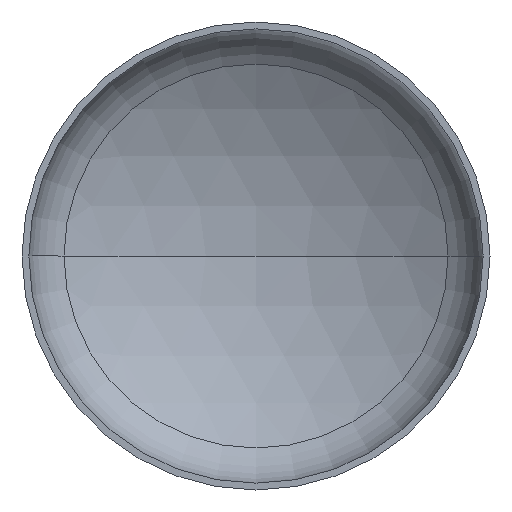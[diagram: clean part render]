
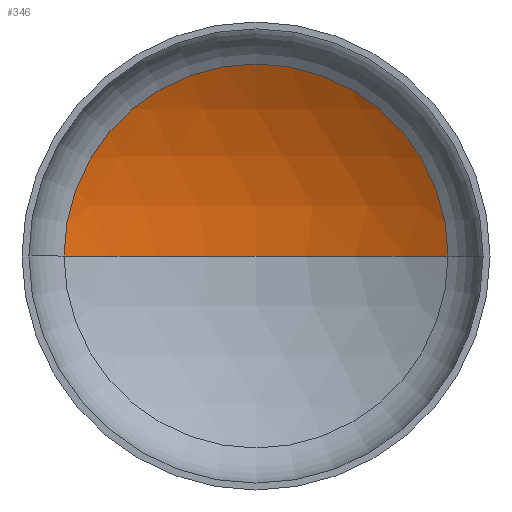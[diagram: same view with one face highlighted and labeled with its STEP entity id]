
A CAD part, front view. The second image highlights one B-rep face of the part: STEP entity #346.
In plain terms, the highlighted spherical face has radius 4800 mm.
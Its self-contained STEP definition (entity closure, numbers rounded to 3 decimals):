
#8 = VERTEX_POINT ( 'NONE', #30 ) ;
#15 = ORIENTED_EDGE ( 'NONE', *, *, #408, .T. ) ;
#29 = ORIENTED_EDGE ( 'NONE', *, *, #395, .T. ) ;
#30 = CARTESIAN_POINT ( 'NONE',  ( -2461.316, 894.134, 0. ) ) ;
#31 = VERTEX_POINT ( 'NONE', #263 ) ;
#41 = DIRECTION ( 'NONE',  ( 0., 0., -1. ) ) ;
#57 = AXIS2_PLACEMENT_3D ( 'NONE', #131, #104, #106 ) ;
#60 = DIRECTION ( 'NONE',  ( -1., 0., 0. ) ) ;
#63 = ORIENTED_EDGE ( 'NONE', *, *, #379, .F. ) ;
#100 = EDGE_LOOP ( 'NONE', ( #63, #29, #15 ) ) ;
#104 = DIRECTION ( 'NONE',  ( 0., -1., 0. ) ) ;
#106 = DIRECTION ( 'NONE',  ( 1., 0., 0. ) ) ;
#112 = VERTEX_POINT ( 'NONE', #311 ) ;
#122 = DIRECTION ( 'NONE',  ( 0., 0., -1. ) ) ;
#131 = CARTESIAN_POINT ( 'NONE',  ( 0., 894.134, 0. ) ) ;
#132 = CARTESIAN_POINT ( 'NONE',  ( 0., -3226.779, 0. ) ) ;
#191 = CARTESIAN_POINT ( 'NONE',  ( 0., -3226.779, 0. ) ) ;
#192 = DIRECTION ( 'NONE',  ( 0., 0., 1. ) ) ;
#195 = CIRCLE ( 'NONE', #57, 2461.316 ) ;
#203 = CIRCLE ( 'NONE', #384, 4800. ) ;
#263 = CARTESIAN_POINT ( 'NONE',  ( 2461.316, 894.134, 0. ) ) ;
#288 = SPHERICAL_SURFACE ( 'NONE', #334, 4800. ) ;
#305 = FACE_OUTER_BOUND ( 'NONE', #100, .T. ) ;
#311 = CARTESIAN_POINT ( 'NONE',  ( 0., 1573.221, 0. ) ) ;
#330 = DIRECTION ( 'NONE',  ( -1., 0., 0. ) ) ;
#334 = AXIS2_PLACEMENT_3D ( 'NONE', #387, #122, #60 ) ;
#346 = ADVANCED_FACE ( 'NONE', ( #305 ), #288, .F. ) ;
#374 = DIRECTION ( 'NONE',  ( 1., 0., 0. ) ) ;
#379 = EDGE_CURVE ( 'NONE', #112, #8, #203, .T. ) ;
#384 = AXIS2_PLACEMENT_3D ( 'NONE', #191, #192, #374 ) ;
#387 = CARTESIAN_POINT ( 'NONE',  ( 0., -3226.779, 0. ) ) ;
#393 = CIRCLE ( 'NONE', #398, 4800. ) ;
#395 = EDGE_CURVE ( 'NONE', #112, #31, #393, .T. ) ;
#398 = AXIS2_PLACEMENT_3D ( 'NONE', #132, #41, #330 ) ;
#408 = EDGE_CURVE ( 'NONE', #31, #8, #195, .T. ) ;
